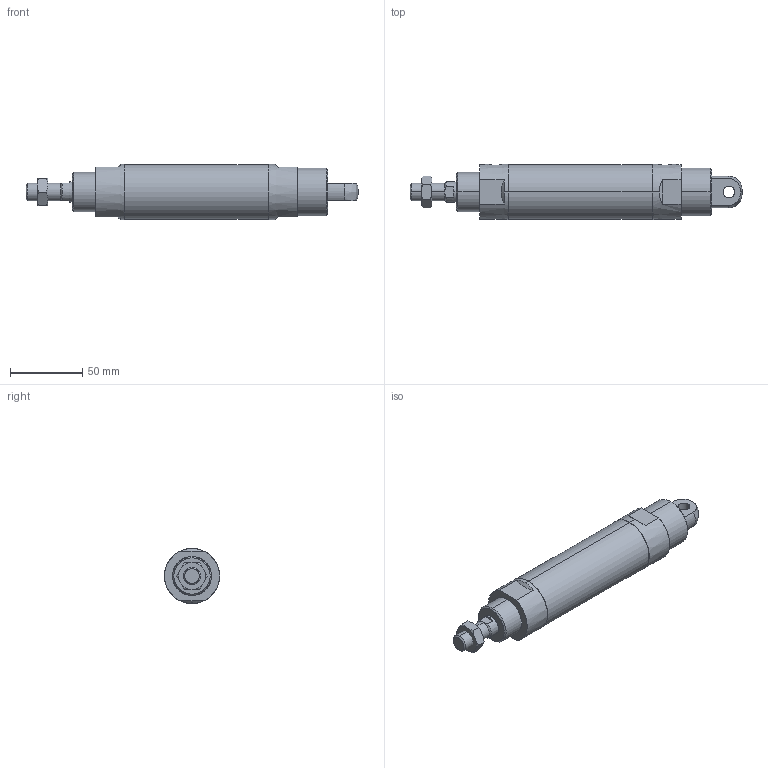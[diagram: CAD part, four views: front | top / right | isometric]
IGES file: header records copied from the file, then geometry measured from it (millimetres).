
Start section: SolidWorks IGES file using analytic representation for surfaces
Global section: file name: C:\Users\Toshiba\Desktop\J#2-32-50-C.IGS; native system: SolidWorks 2014; preprocessor: SolidWorks 2014; author: Toshiba; date: 160308.153219; units: millimetre
Bounding box: 229 x 38 x 38 mm (x, y, z)
Surface area: 26977.3 mm2 (no closed solid volume)
Topology: 0 solids, 0 shells, 81 faces, 1552 edges, 1548 vertices
Faces by surface type: bspline 42, revolution 39
